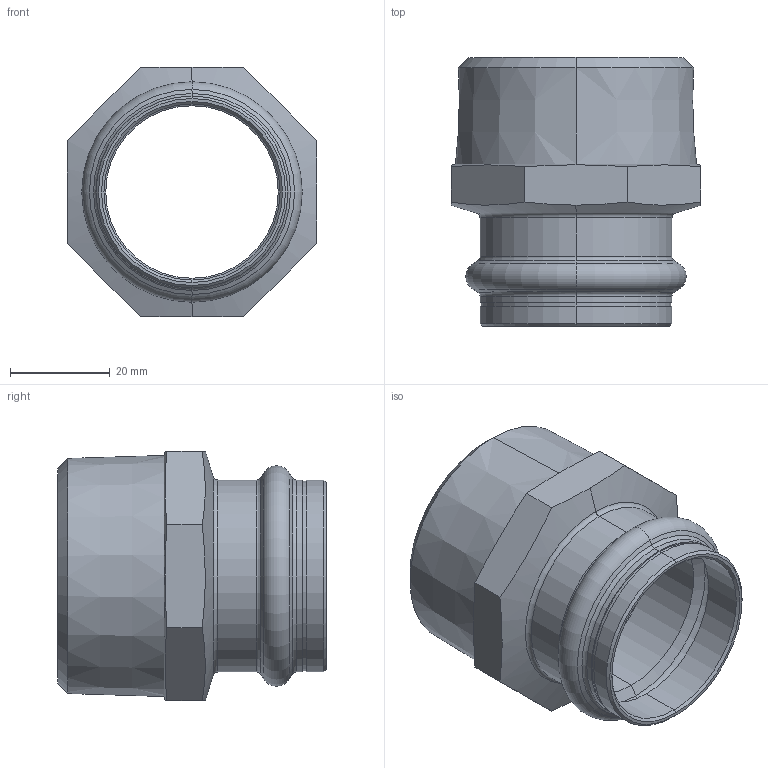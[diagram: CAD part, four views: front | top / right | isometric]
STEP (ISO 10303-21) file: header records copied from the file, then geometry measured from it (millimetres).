
FILE_DESCRIPTION (( 'STEP AP203' ), '1' );
FILE_NAME ('SP4243G Ø35 1 1-2.STEP', '2017-04-26T07:53:20', ( '' ), ( '' ), 'SwSTEP 2.0', 'SolidWorks 2016', '' );
FILE_SCHEMA (( 'CONFIG_CONTROL_DESIGN' ));
Length unit declared in the file: millimetre
Products named in the file (1): SP4243G Ø35 1 1-2
Bounding box: 50 x 53.9 x 50 mm (x, y, z)
Volume: 24684.8 mm3; surface area: 16214 mm2
Topology: 1 solids, 1 shells, 63 faces, 136 edges, 78 vertices
Faces by surface type: cone 24, cylinder 16, plane 13, torus 10
Entity records: 1851 total; most frequent: CARTESIAN_POINT 394, DIRECTION 312, ORIENTED_EDGE 272, EDGE_CURVE 136, AXIS2_PLACEMENT_3D 132, VERTEX_POINT 78, CIRCLE 68, EDGE_LOOP 68
